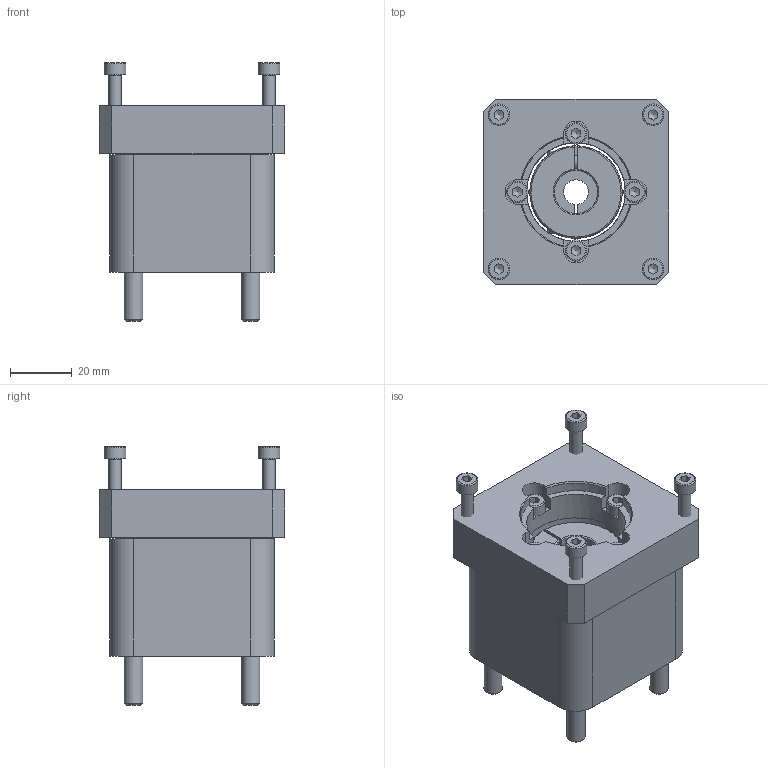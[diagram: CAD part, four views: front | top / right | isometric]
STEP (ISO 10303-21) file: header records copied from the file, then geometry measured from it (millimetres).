
FILE_DESCRIPTION(/* description */ ('EAMK-A O - Kupplungsgehäuse'),/* implementation_level */ '2;1');
FILE_NAME(/* name */ 'C:\STORE\ホームページ用データ\\X2\30E230FC30BF53D64ED830AD30C330C8\X0\_2016_追加\3D_STEP\J08513A.stp',/* time_stamp */ '2016-03-08T13:40:32+09:00',/* author */ ('jp4te01'),/* organization */ (''),/* preprocessor_version */ 'ST-DEVELOPER v15.6',/* originating_system */ 'Autodesk Inventor 2015',/* authorisation */ '');
FILE_SCHEMA (('AUTOMOTIVE_DESIGN { 1 0 10303 214 3 1 1 }'));
Length unit declared in the file: millimetre
Products named in the file (8): 552157_EAMK_A_D40_44_1O_; DIN_912___M6x30_F_; 552157_EAMK_A_D40_44; J08126B; 562682_EAMC_30_32_8_14; コピー版 JIS B 1176 - M4 x 15; コピー版 JIS B 1176 - M4 x 18; J08513A
Bounding box: 60 x 60 x 83.9 mm (x, y, z)
Volume: 124455.1 mm3; surface area: 48646.6 mm2
Topology: 15 solids, 15 shells, 474 faces, 1146 edges, 727 vertices
Faces by surface type: plane 243, cylinder 118, cone 91, torus 22
Full cylindrical faces by diameter (mm): 2 x12, 3.242 x10, 4 x10, 4.5 x4, 6 x4, 6.5 x4, 7 x8, 10 x4, 14.2 x1, 32 x1, 40 x1, 44 x1
Entity records: 9251 total; most frequent: CARTESIAN_POINT 1912, DIRECTION 1558, ORIENTED_EDGE 1366, EDGE_CURVE 683, AXIS2_PLACEMENT_3D 623, VERTEX_POINT 485, EDGE_LOOP 432, LINE 312
